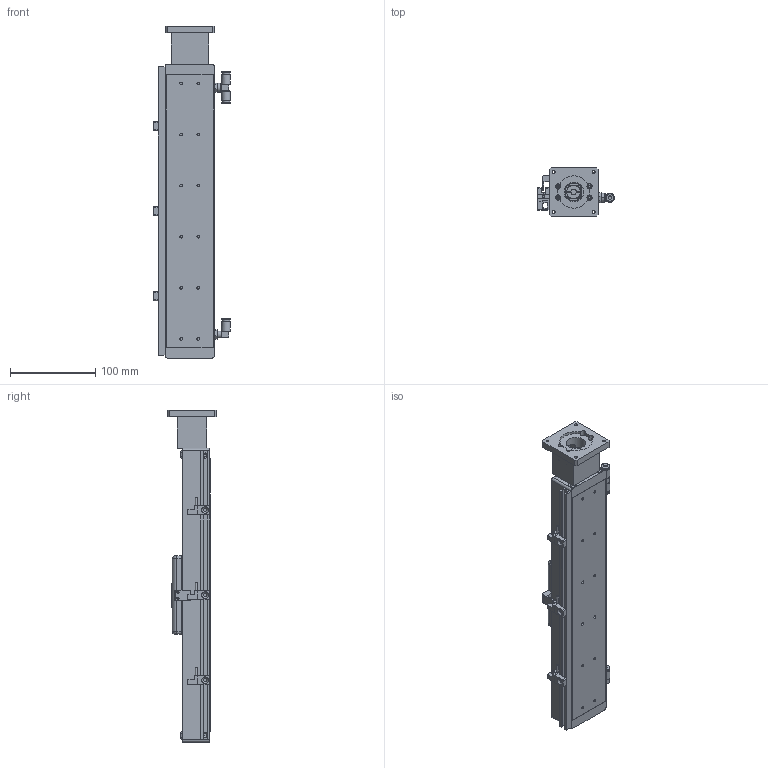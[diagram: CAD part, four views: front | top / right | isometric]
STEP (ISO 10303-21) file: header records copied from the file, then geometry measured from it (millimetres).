
FILE_DESCRIPTION((''),'2;1');
FILE_NAME('E:\catalogue and flyer\actuator catalogue 2015\dwg fr wg\UIA058CR7DC\UIA058CR7DC change cover strip 09May16\UIA058CR7DC-stp file 09May16\UIA058CR7DC-200-R0803-M23-P13-C10.stp','2016-05-09T14:16:33',('h029'),(''),'Autodesk Inventor 11','Autodesk Inventor 11','');
FILE_SCHEMA(('AUTOMOTIVE_DESIGN { 1 0 10303 214 1 1 1 1 }'));
Length unit declared in the file: millimetre
Products named in the file (14): UIA058CR7DC-200; UIA058CR7DC-body; GWL4-M5; GWT4-M5; Sensor Rail; Sensor Bracket; PM-L24; 19-100 0110 M23 Motor House; carriage-new; 19-100 0071 sensor flag; SOH-16C; SOH-16C-3; SOH-16C-2; SOH-16C-1
Assembly tree (17 placements, depth 3):
  UIA058CR7DC-200
    UIA058CR7DC-body
    GWL4-M5
    GWT4-M5
    Sensor Rail
    Sensor Bracket  x3
    PM-L24  x3
    19-100 0110 M23 Motor House
    carriage-new
    19-100 0071 sensor flag
    SOH-16C
      SOH-16C-3
      SOH-16C-2
      SOH-16C-1
Bounding box: 90.1 x 57 x 390 mm (x, y, z)
Volume: 797619.4 mm3; surface area: 135160.9 mm2
Topology: 16 solids, 16 shells, 693 faces, 1742 edges, 1132 vertices
Faces by surface type: plane 399, cylinder 139, bspline 137, cone 10, sphere 8
Full cylindrical faces by diameter (mm): 2.459 x4, 2.5 x5, 4 x2, 5 x5, 6 x4, 6.35 x1, 8.6 x2, 9 x2, 16 x3, 23 x1
Entity records: 18813 total; most frequent: CARTESIAN_POINT 4943, DIRECTION 2774, ORIENTED_EDGE 2644, EDGE_CURVE 1322, AXIS2_PLACEMENT_3D 965, VERTEX_POINT 909, VECTOR 844, LINE 844
